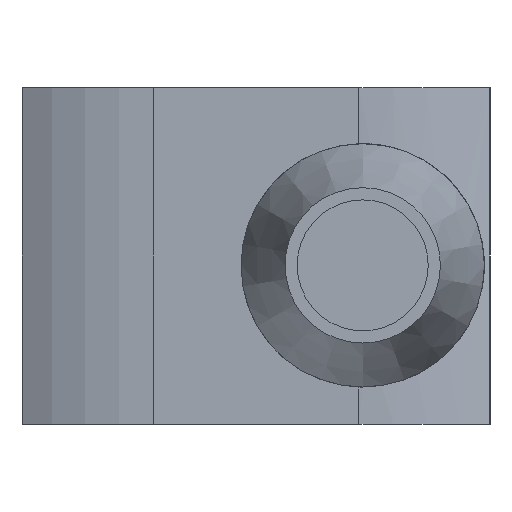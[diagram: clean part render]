
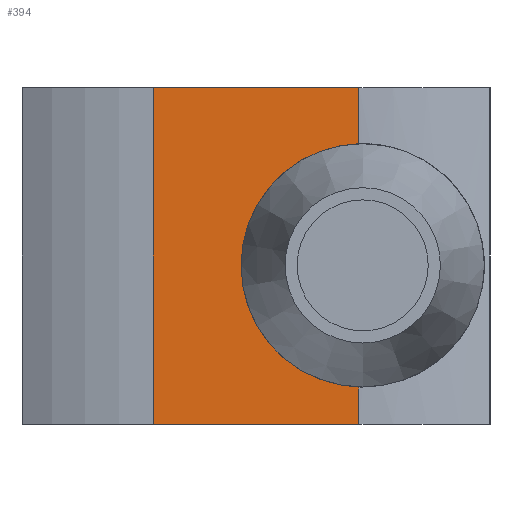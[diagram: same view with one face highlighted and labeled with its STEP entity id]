
A CAD part, left-side view. The second image highlights one B-rep face of the part: STEP entity #394.
In plain terms, the highlighted planar face has unit normal (-1, 0, 0).
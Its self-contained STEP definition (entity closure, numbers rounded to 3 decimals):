
#218=PLANE('',#4337);
#394=ADVANCED_FACE('NONE',(#698),#218,.F.);
#698=FACE_OUTER_BOUND('',#922,.T.);
#922=EDGE_LOOP('',(#1792,#1793,#1794,#1795,#1796,#1797));
#1141=CIRCLE('',#4336,6.5);
#1792=ORIENTED_EDGE('',*,*,#3086,.F.);
#1793=ORIENTED_EDGE('',*,*,#3088,.F.);
#1794=ORIENTED_EDGE('',*,*,#3082,.F.);
#1795=ORIENTED_EDGE('',*,*,#3089,.F.);
#1796=ORIENTED_EDGE('',*,*,#3090,.T.);
#1797=ORIENTED_EDGE('',*,*,#3074,.T.);
#2596=VERTEX_POINT('',#6377);
#2598=VERTEX_POINT('',#6382);
#2604=VERTEX_POINT('',#6400);
#2605=VERTEX_POINT('',#6401);
#2608=VERTEX_POINT('',#6458);
#2609=VERTEX_POINT('',#6464);
#3074=EDGE_CURVE('NONE',#2596,#2598,#3567,.T.);
#3082=EDGE_CURVE('NONE',#2604,#2605,#3573,.T.);
#3086=EDGE_CURVE('NONE',#2608,#2598,#3574,.T.);
#3088=EDGE_CURVE('NONE',#2605,#2608,#1141,.T.);
#3089=EDGE_CURVE('',#2609,#2604,#3575,.T.);
#3090=EDGE_CURVE('NONE',#2609,#2596,#3576,.T.);
#3567=LINE('',#6383,#3973);
#3573=LINE('',#6399,#3979);
#3574=LINE('',#6459,#3980);
#3575=LINE('',#6463,#3981);
#3576=LINE('',#6465,#3982);
#3973=VECTOR('',#5163,1.);
#3979=VECTOR('',#5179,1.);
#3980=VECTOR('',#5180,1.);
#3981=VECTOR('',#5187,1.);
#3982=VECTOR('',#5188,1.);
#4336=AXIS2_PLACEMENT_3D('',#6462,#5185,#5186);
#4337=AXIS2_PLACEMENT_3D('',#6466,#5189,#5190);
#5163=DIRECTION('',(0.,-1.,0.));
#5179=DIRECTION('',(0.,0.,-1.));
#5180=DIRECTION('',(0.,0.,-1.));
#5185=DIRECTION('',(-1.,0.,0.));
#5186=DIRECTION('',(0.,0.,1.));
#5187=DIRECTION('',(0.,-1.,0.));
#5188=DIRECTION('',(0.,0.,-1.));
#5189=DIRECTION('',(1.,0.,0.));
#5190=DIRECTION('',(0.,0.,-1.));
#6377=CARTESIAN_POINT('',(-36.,5.5,0.));
#6382=CARTESIAN_POINT('',(-36.,-5.5,0.));
#6383=CARTESIAN_POINT('',(-36.,5.5,0.));
#6399=CARTESIAN_POINT('',(-36.,-5.5,18.));
#6400=CARTESIAN_POINT('',(-36.,-5.5,18.));
#6401=CARTESIAN_POINT('',(-36.,-5.5,14.997));
#6458=CARTESIAN_POINT('',(-36.,-5.5,2.003));
#6459=CARTESIAN_POINT('',(-36.,-5.5,18.));
#6462=CARTESIAN_POINT('',(-36.,-5.7,8.5));
#6463=CARTESIAN_POINT('',(-36.,5.5,18.));
#6464=CARTESIAN_POINT('',(-36.,5.5,18.));
#6465=CARTESIAN_POINT('',(-36.,5.5,18.));
#6466=CARTESIAN_POINT('',(-36.,5.5,18.));
